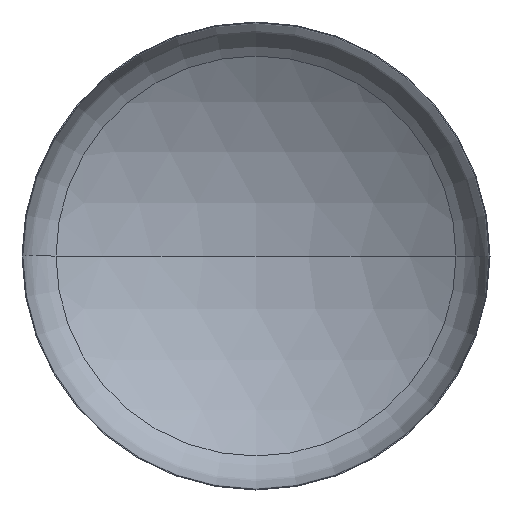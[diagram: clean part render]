
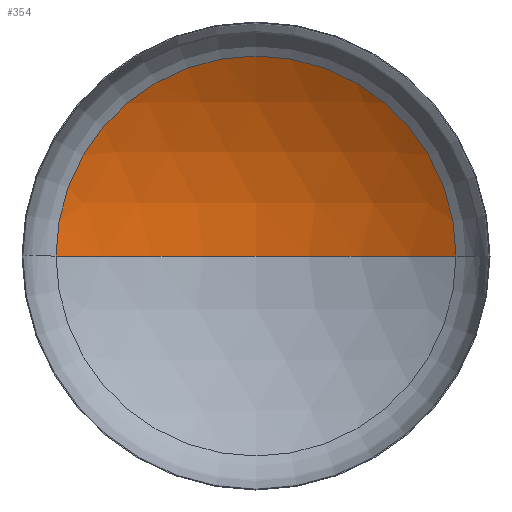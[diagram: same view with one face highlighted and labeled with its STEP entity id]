
A CAD part, front view. The second image highlights one B-rep face of the part: STEP entity #354.
In plain terms, the highlighted spherical face has radius 1520 mm.
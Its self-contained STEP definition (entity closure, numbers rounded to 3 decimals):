
#12 = AXIS2_PLACEMENT_3D ( 'NONE', #170, #340, #286 ) ;
#14 = EDGE_LOOP ( 'NONE', ( #139, #130, #187 ) ) ;
#19 = AXIS2_PLACEMENT_3D ( 'NONE', #225, #387, #171 ) ;
#20 = AXIS2_PLACEMENT_3D ( 'NONE', #147, #315, #317 ) ;
#25 = AXIS2_PLACEMENT_3D ( 'NONE', #142, #164, #163 ) ;
#53 = VERTEX_POINT ( 'NONE', #243 ) ;
#76 = CIRCLE ( 'NONE', #19, 1520. ) ;
#104 = VERTEX_POINT ( 'NONE', #362 ) ;
#130 = ORIENTED_EDGE ( 'NONE', *, *, #349, .T. ) ;
#139 = ORIENTED_EDGE ( 'NONE', *, *, #351, .F. ) ;
#141 = VERTEX_POINT ( 'NONE', #199 ) ;
#142 = CARTESIAN_POINT ( 'NONE',  ( 0., 265.164, 0. ) ) ;
#147 = CARTESIAN_POINT ( 'NONE',  ( 0., -1019.832, 0. ) ) ;
#163 = DIRECTION ( 'NONE',  ( 1., 0., 0. ) ) ;
#164 = DIRECTION ( 'NONE',  ( 0., -1., 0. ) ) ;
#170 = CARTESIAN_POINT ( 'NONE',  ( 0., -1019.832, 0. ) ) ;
#171 = DIRECTION ( 'NONE',  ( 1., 0., 0. ) ) ;
#187 = ORIENTED_EDGE ( 'NONE', *, *, #336, .T. ) ;
#191 = CIRCLE ( 'NONE', #20, 1520. ) ;
#199 = CARTESIAN_POINT ( 'NONE',  ( -811.902, 265.164, 0. ) ) ;
#225 = CARTESIAN_POINT ( 'NONE',  ( 0., -1019.832, 0. ) ) ;
#243 = CARTESIAN_POINT ( 'NONE',  ( 0., 500.168, 0. ) ) ;
#261 = FACE_OUTER_BOUND ( 'NONE', #14, .T. ) ;
#266 = CIRCLE ( 'NONE', #25, 811.902 ) ;
#286 = DIRECTION ( 'NONE',  ( -1., 0., 0. ) ) ;
#305 = SPHERICAL_SURFACE ( 'NONE', #12, 1520. ) ;
#315 = DIRECTION ( 'NONE',  ( 0., 0., -1. ) ) ;
#317 = DIRECTION ( 'NONE',  ( -1., 0., 0. ) ) ;
#336 = EDGE_CURVE ( 'NONE', #104, #141, #266, .T. ) ;
#340 = DIRECTION ( 'NONE',  ( 0., 0., -1. ) ) ;
#349 = EDGE_CURVE ( 'NONE', #53, #104, #191, .T. ) ;
#351 = EDGE_CURVE ( 'NONE', #53, #141, #76, .T. ) ;
#354 = ADVANCED_FACE ( 'NONE', ( #261 ), #305, .F. ) ;
#362 = CARTESIAN_POINT ( 'NONE',  ( 811.902, 265.164, 0. ) ) ;
#387 = DIRECTION ( 'NONE',  ( 0., 0., 1. ) ) ;
